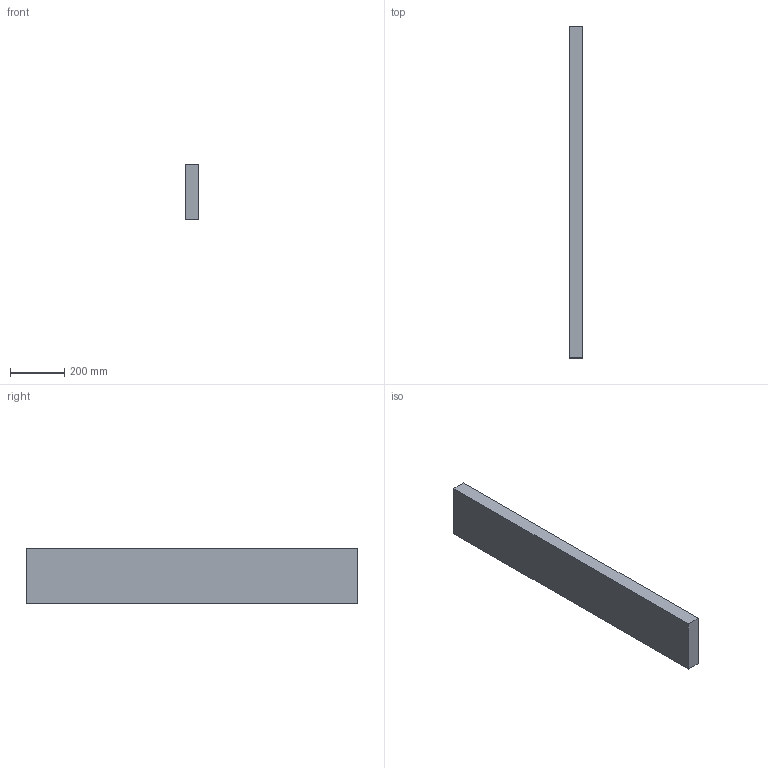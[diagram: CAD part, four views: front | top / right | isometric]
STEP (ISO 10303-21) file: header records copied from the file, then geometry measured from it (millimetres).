
FILE_DESCRIPTION(/* description */ (''),/* implementation_level */ '2;1');
FILE_NAME(/* name */ 'SM_Baffle2x8x48',/* time_stamp */ '2024-10-15T11:56:59-05:00',/* author */ (''),/* organization */ (''),/* preprocessor_version */ 'ST-DEVELOPER v19.2',/* originating_system */ 'Rhino 8.4',/* authorisation */ '');
FILE_SCHEMA (('CONFIG_CONTROL_DESIGN'));
Length unit declared in the file: inch
Products named in the file (1): Document
Bounding box: 50.8 x 1219.2 x 203.2 mm (x, y, z)
Volume: 12585265.2 mm3; surface area: 639998.7 mm2
Topology: 1 solids, 1 shells, 6 faces, 12 edges, 8 vertices
Faces by surface type: plane 6
Entity records: 226 total; most frequent: CARTESIAN_POINT 40, ORIENTED_EDGE 24, EDGE_CURVE 12, B_SPLINE_CURVE_WITH_KNOTS 12, DIRECTION 10, VERTEX_POINT 8, AXIS2_PLACEMENT_3D 8, ORGANIZATION 7
